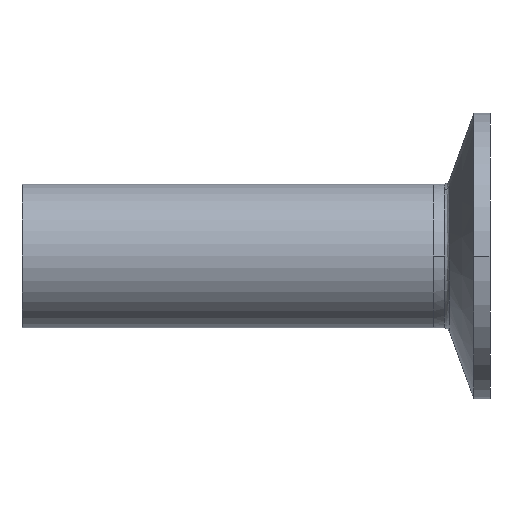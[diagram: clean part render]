
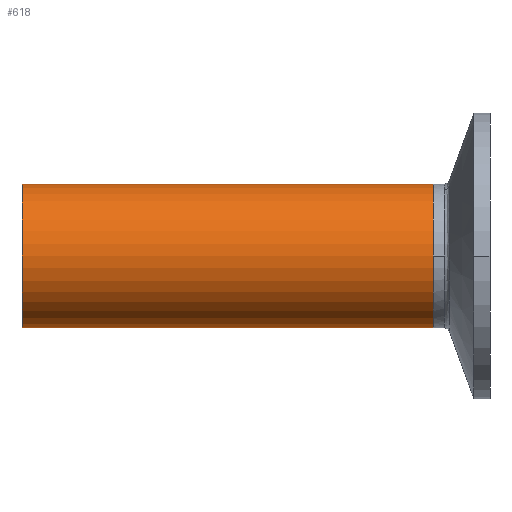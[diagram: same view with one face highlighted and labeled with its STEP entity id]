
A CAD part, front view. The second image highlights one B-rep face of the part: STEP entity #618.
In plain terms, the highlighted cylindrical face has radius 12.7 mm (diameter 25.4 mm), a partial arc.
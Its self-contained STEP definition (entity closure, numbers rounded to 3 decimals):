
#94 = DIRECTION ( 'NONE',  ( 0., 0., 1. ) ) ;
#153 = DIRECTION ( 'NONE',  ( -1., 0., 0. ) ) ;
#237 = EDGE_CURVE ( 'NONE', #594, #1522, #531, .T. ) ;
#244 = LINE ( 'NONE', #382, #937 ) ;
#249 = CARTESIAN_POINT ( 'NONE',  ( 54.521, 0., 0. ) ) ;
#270 = ORIENTED_EDGE ( 'NONE', *, *, #824, .T. ) ;
#285 = CARTESIAN_POINT ( 'NONE',  ( 54.521, 0., -12.7 ) ) ;
#312 = CARTESIAN_POINT ( 'NONE',  ( -54., 0., -12.7 ) ) ;
#346 = DIRECTION ( 'NONE',  ( 1., 0., 0. ) ) ;
#376 = CIRCLE ( 'NONE', #1043, 12.7 ) ;
#382 = CARTESIAN_POINT ( 'NONE',  ( 54.521, 0., 12.7 ) ) ;
#385 = CARTESIAN_POINT ( 'NONE',  ( 18.6, 0., 12.7 ) ) ;
#415 = VERTEX_POINT ( 'NONE', #312 ) ;
#489 = DIRECTION ( 'NONE',  ( -1., 0., 0. ) ) ;
#531 = LINE ( 'NONE', #557, #1532 ) ;
#557 = CARTESIAN_POINT ( 'NONE',  ( 54.521, 0., 12.7 ) ) ;
#594 = VERTEX_POINT ( 'NONE', #1085 ) ;
#610 = VERTEX_POINT ( 'NONE', #385 ) ;
#618 = ADVANCED_FACE ( 'NONE', ( #1651 ), #1341, .T. ) ;
#629 = VECTOR ( 'NONE', #153, 1000. ) ;
#648 = LINE ( 'NONE', #285, #1692 ) ;
#701 = VERTEX_POINT ( 'NONE', #926 ) ;
#702 = ORIENTED_EDGE ( 'NONE', *, *, #1010, .T. ) ;
#751 = ORIENTED_EDGE ( 'NONE', *, *, #1350, .T. ) ;
#773 = CIRCLE ( 'NONE', #1641, 12.7 ) ;
#785 = CARTESIAN_POINT ( 'NONE',  ( -54., 0., 0. ) ) ;
#824 = EDGE_CURVE ( 'NONE', #991, #610, #376, .T. ) ;
#842 = DIRECTION ( 'NONE',  ( -1., 0., 0. ) ) ;
#923 = EDGE_CURVE ( 'NONE', #701, #415, #648, .T. ) ;
#926 = CARTESIAN_POINT ( 'NONE',  ( 0., 0., -12.7 ) ) ;
#937 = VECTOR ( 'NONE', #1694, 1000. ) ;
#991 = VERTEX_POINT ( 'NONE', #1722 ) ;
#996 = LINE ( 'NONE', #1116, #629 ) ;
#1010 = EDGE_CURVE ( 'NONE', #610, #594, #244, .T. ) ;
#1030 = EDGE_LOOP ( 'NONE', ( #1557, #270, #702, #1736, #751, #1460 ) ) ;
#1043 = AXIS2_PLACEMENT_3D ( 'NONE', #1385, #1378, #1259 ) ;
#1085 = CARTESIAN_POINT ( 'NONE',  ( 0., 0., 12.7 ) ) ;
#1116 = CARTESIAN_POINT ( 'NONE',  ( 54.521, 0., -12.7 ) ) ;
#1208 = DIRECTION ( 'NONE',  ( -1., 0., 0. ) ) ;
#1259 = DIRECTION ( 'NONE',  ( 0., 0., 1. ) ) ;
#1267 = CARTESIAN_POINT ( 'NONE',  ( -54., 0., 12.7 ) ) ;
#1341 = CYLINDRICAL_SURFACE ( 'NONE', #1634, 12.7 ) ;
#1346 = DIRECTION ( 'NONE',  ( 0., 0., 1. ) ) ;
#1350 = EDGE_CURVE ( 'NONE', #1522, #415, #773, .T. ) ;
#1378 = DIRECTION ( 'NONE',  ( -1., 0., 0. ) ) ;
#1385 = CARTESIAN_POINT ( 'NONE',  ( 18.6, 0., 0. ) ) ;
#1460 = ORIENTED_EDGE ( 'NONE', *, *, #923, .F. ) ;
#1522 = VERTEX_POINT ( 'NONE', #1267 ) ;
#1531 = EDGE_CURVE ( 'NONE', #991, #701, #996, .T. ) ;
#1532 = VECTOR ( 'NONE', #489, 1000. ) ;
#1557 = ORIENTED_EDGE ( 'NONE', *, *, #1531, .F. ) ;
#1634 = AXIS2_PLACEMENT_3D ( 'NONE', #249, #1208, #1346 ) ;
#1641 = AXIS2_PLACEMENT_3D ( 'NONE', #785, #346, #94 ) ;
#1651 = FACE_OUTER_BOUND ( 'NONE', #1030, .T. ) ;
#1692 = VECTOR ( 'NONE', #842, 1000. ) ;
#1694 = DIRECTION ( 'NONE',  ( -1., 0., 0. ) ) ;
#1722 = CARTESIAN_POINT ( 'NONE',  ( 18.6, 0., -12.7 ) ) ;
#1736 = ORIENTED_EDGE ( 'NONE', *, *, #237, .T. ) ;
